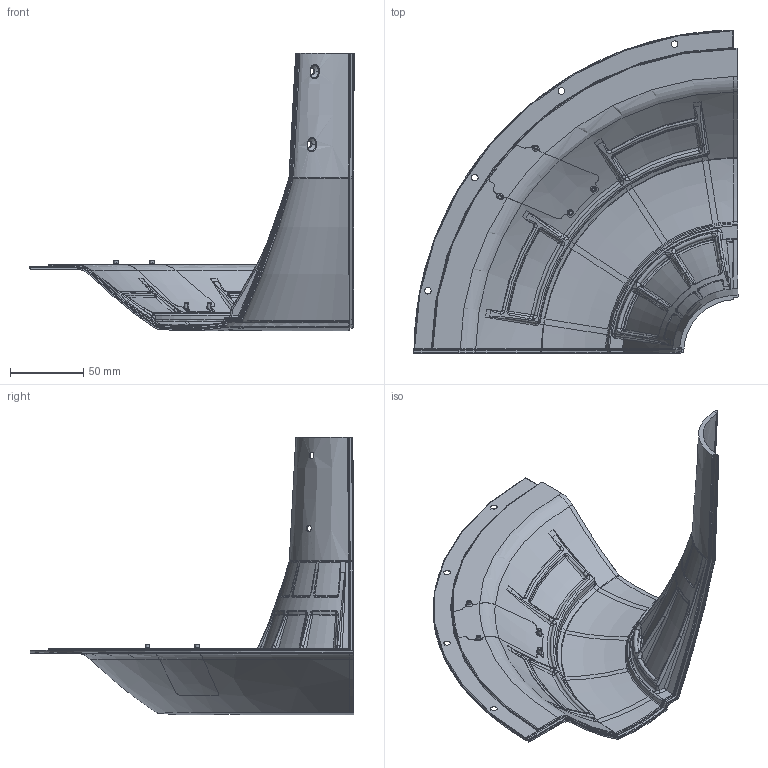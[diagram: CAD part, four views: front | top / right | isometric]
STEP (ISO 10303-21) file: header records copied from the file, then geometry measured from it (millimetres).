
FILE_DESCRIPTION((''),'2;1');
FILE_NAME('2198T-AS-C-B-90_ASM','2024-08-21T15:31:33',('RRajan1'),('Rockwell Automation'),'CREO PARAMETRIC BY PTC INC, 2020281','CREO PARAMETRIC BY PTC INC, 2020281','');
FILE_SCHEMA(('CONFIG_CONTROL_DESIGN'));
Length unit declared in the file: millimetre
Products named in the file (4): W0000106873_1_1; W0000106873_1_2; W0000106873_1_ASM; 2198T-AS-C-B-90_ASM
Assembly tree (3 placements, depth 3):
  2198T-AS-C-B-90_ASM
    W0000106873_1_ASM
      W0000106873_1_1
      W0000106873_1_2
Bounding box: 222.1 x 221.75 x 190.14 mm (x, y, z)
Volume: 166498.6 mm3; surface area: 113874.4 mm2
Topology: 2 solids, 2 shells, 765 faces, 1923 edges, 1117 vertices
Faces by surface type: bspline 192, cylinder 172, torus 160, plane 107, cone 83, sphere 47, revolution 4
Entity records: 38186 total; most frequent: CARTESIAN_POINT 21902, ORIENTED_EDGE 3746, DIRECTION 2992, EDGE_CURVE 1873, AXIS2_PLACEMENT_3D 1334, VERTEX_POINT 1117, B_SPLINE_CURVE_WITH_KNOTS 801, EDGE_LOOP 784
